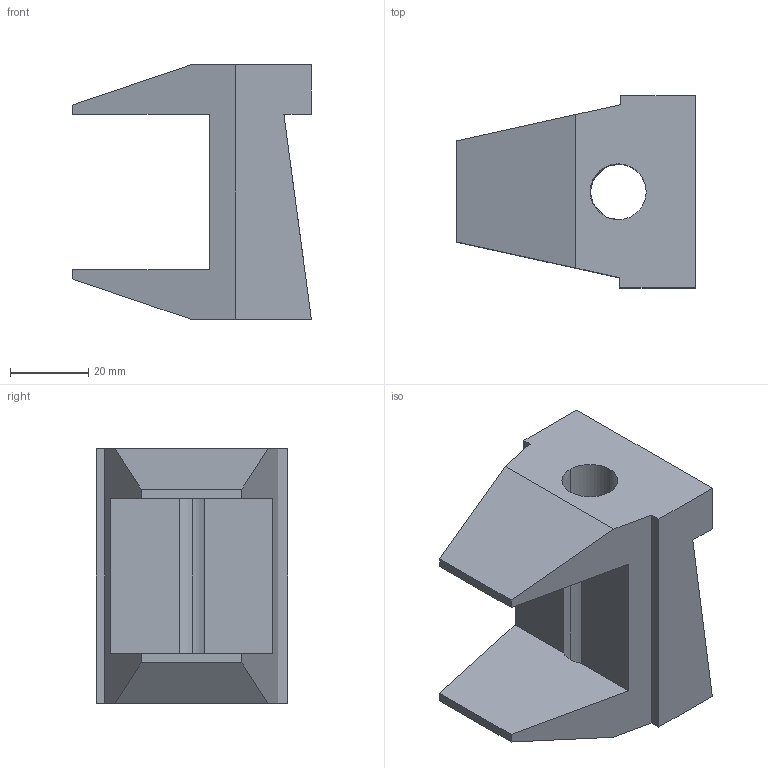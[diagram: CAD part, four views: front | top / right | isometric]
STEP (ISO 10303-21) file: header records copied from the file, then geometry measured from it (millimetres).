
FILE_DESCRIPTION(('TurboCAD Mac Pro'),'Build 980');
FILE_NAME('PLF3050.stp',' ',(''),(''),'ACIS Interop','IMSI','TurboCAD Mac Pro BY IMSI, INCORPORATED');
FILE_SCHEMA(('automotive_design'));
Length unit declared in the file: inch
Products named in the file (1): 1
Bounding box: 61 x 48.98 x 65.09 mm (x, y, z)
Volume: 81220.2 mm3; surface area: 19164.6 mm2
Topology: 1 solids, 1 shells, 23 faces, 69 edges, 46 vertices
Faces by surface type: plane 18, bspline 5
Entity records: 1274 total; most frequent: CARTESIAN_POINT 237, ORIENTED_EDGE 138, DIRECTION 88, STYLED_ITEM 74, PRESENTATION_STYLE_ASSIGNMENT 74, COLOUR_RGB 74, EDGE_CURVE 69, CURVE_STYLE 50
